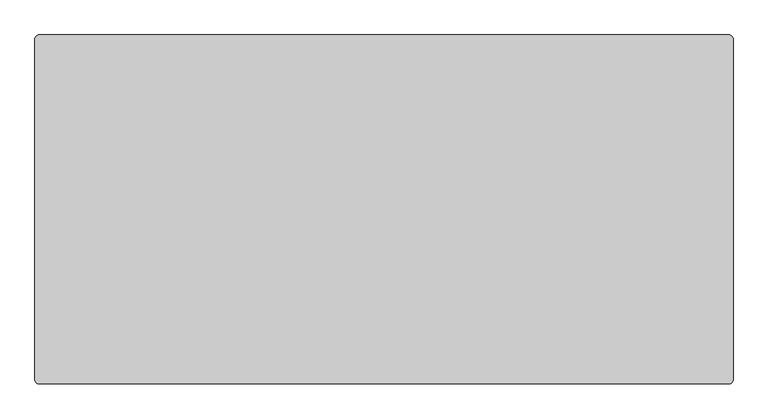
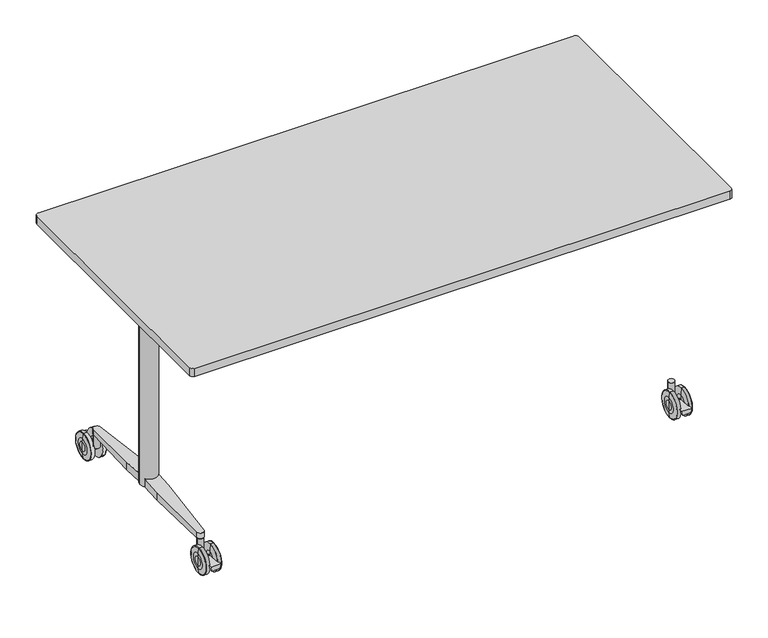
"""IFC4 building model written with IfcOpenShell, lengths in millimetres: furniture geometry."""

from ifc_helpers import new_model, si_unit, point, frame, frame_2d, origin, place, context, project, spatial, polyline, circle_curve, ellipse_curve, trimmed, segment, composite_curve, outline, extrude, source, transform, mapped, element, save
from ifc_brep_helpers import plane_surface, cylinder_surface, revolved_surface, advanced_brep


def furniture_45383b6d(model_context):
    return source(origin(), model_context, "Body", "SolidModel", [
        extrude(outline(composite_curve([segment(trimmed(circle_curve(frame_2d((-790.0, 515.9511544)), 10.0), [point((-800.0, 515.9511544))], [point((-790.0, 525.9511544))], False, "CARTESIAN"), True, "CONTINUOUS"), segment(polyline([(-790.0, 525.9511544), (790.0, 525.9511544)]), True, "CONTINUOUS"), segment(trimmed(circle_curve(frame_2d((790.0, 515.9511544)), 10.0), [point((790.0, 525.9511544))], [point((800.0, 515.9511544))], False, "CARTESIAN"), True, "CONTINUOUS"), segment(polyline([(800.0, 515.9511544), (800.0, -264.0488456)]), True, "CONTINUOUS"), segment(trimmed(circle_curve(frame_2d((790.0, -264.0488456)), 10.0), [point((800.0, -264.0488456))], [point((790.0, -274.0488456))], False, "CARTESIAN"), True, "CONTINUOUS"), segment(polyline([(790.0, -274.0488456), (-790.0, -274.0488456)]), True, "CONTINUOUS"), segment(trimmed(circle_curve(frame_2d((-790.0, -264.0488456)), 10.0), [point((-790.0, -274.0488456))], [point((-800.0, -264.0488456))], False, "CARTESIAN"), True, "CONTINUOUS"), segment(polyline([(-800.0, -264.0488456), (-800.0, 515.9511544)]), True, "CONTINUOUS")], self_intersect=False)), frame((0.0, 0.0, 705.0), z_axis=(0.0, 0.0, 1.0), x_axis=(1.0, 0.0, 0.0)), (0.0, 0.0, 1.0), 25.0),
        extrude(outline(polyline([(46.8012701, -709.9796901), (33.7579803, -707.2784737), (33.7579803, -683.5602115), (46.8012701, -680.8589951), (46.8012701, -709.9796901)])), frame((0.0, -219.0488456, 0.0), z_axis=(0.0, 1.0, 0.0), x_axis=(0.0, 0.0, 1.0)), (0.0, 0.0, 1.0), 50.0),
        extrude(outline(composite_curve([segment(trimmed(circle_curve(frame_2d((-695.5388896, -138.8396127)), 9.5), [point((-705.0388896, -138.8396127))], [point((-686.0388896, -138.8396127))], False, "CARTESIAN"), True, "CONTINUOUS"), segment(trimmed(circle_curve(frame_2d((-695.5388896, -138.8396127)), 9.5), [point((-686.0388896, -138.8396127))], [point((-705.0388896, -138.8396127))], False, "CARTESIAN"), True, "CONTINUOUS")], self_intersect=False)), frame((0.0, 0.0, 50.0000143), z_axis=(0.0, 0.0, 1.0), x_axis=(1.0, 0.0, 0.0)), (0.0, 0.0, 1.0), 38.8098324),
        advanced_brep(
        [(-670.4530674, -169.0488456, 26.9613134), (-670.4530674, -169.0488456, 53.0387194), (-670.4530674, -169.0488456, 40.0000164), (-672.5845915, -169.0488456, 0.8972162), (-672.5845915, -169.0488456, 79.1028166), (-671.0121742, -169.0488456, 63.8876748), (-671.0121742, -169.0488456, 16.1123581), (-683.5439759, -169.0488456, 1.43e-05), (-683.5439759, -169.0488456, 80.0000185), (-673.5792938, -169.0488456, 80.0000185), (-673.5792938, -169.0488456, 1.43e-05), (-685.4530966, -169.0488456, 20.9999281), (-685.4530966, -169.0488456, 59.0001048), (-685.4530966, -169.0488456, 32.3463502), (-685.4530966, -169.0488456, 47.6536826), (-705.3531174, -169.0488456, 32.3463502), (-705.3531174, -169.0488456, 47.6536826), (-705.3531174, -169.0488456, 20.9999281), (-705.3531174, -169.0488456, 59.0001048), (-707.2622381, -169.0488456, 1.43e-05), (-707.2622381, -169.0488456, 80.0000185), (-716.3249398, -169.0488456, 1.43e-05), (-716.3249398, -169.0488456, 80.0000185), (-719.7942336, -169.0488456, 16.1142331), (-719.7942336, -169.0488456, 63.8857997), (-718.3143443, -169.0488456, 78.2056147), (-718.3143443, -169.0488456, 1.7944182), (-720.3531466, -169.0488456, 40.0000164), (-720.3531466, -169.0488456, 53.0406045), (-720.3531466, -169.0488456, 26.9594284)],
        [
            (0, 1, circle_curve(frame((-670.4530674, -169.0488456, 40.0000164), z_axis=(1.0, 0.0, 0.0), x_axis=(0.0, 0.0, 1.0)), 13.038703)),
            (1, 2),
            (2, 0),
            (1, 0, circle_curve(frame((-670.4530674, -169.0488456, 40.0000164), z_axis=(1.0, 0.0, 0.0), x_axis=(0.0, 0.0, 1.0)), 13.038703)),
            (3, 4, circle_curve(frame((-672.5845915, -169.0488456, 40.0000164), z_axis=(1.0, 0.0, 0.0), x_axis=(0.0, 0.0, 1.0)), 39.1028002)),
            (4, 5),
            (5, 6, circle_curve(frame((-671.0121742, -169.0488456, 40.0000164), z_axis=(-1.0, 0.0, 0.0), x_axis=(0.0, 0.0, 1.0)), 23.8876584)),
            (6, 3),
            (4, 3, circle_curve(frame((-672.5845915, -169.0488456, 40.0000164), z_axis=(1.0, 0.0, 0.0), x_axis=(0.0, 0.0, 1.0)), 39.1028002)),
            (6, 5, circle_curve(frame((-671.0121742, -169.0488456, 40.0000164), z_axis=(-1.0, 0.0, 0.0), x_axis=(0.0, 0.0, 1.0)), 23.8876584)),
            (7, 8, circle_curve(frame((-683.5439759, -169.0488456, 40.0000164), z_axis=(1.0, 0.0, 0.0), x_axis=(0.0, 0.0, 1.0)), 40.0000021)),
            (8, 9),
            (9, 10, circle_curve(frame((-673.5792938, -169.0488456, 40.0000164), z_axis=(-1.0, 0.0, 0.0), x_axis=(0.0, 0.0, 1.0)), 40.0000021)),
            (10, 7),
            (8, 7, circle_curve(frame((-683.5439759, -169.0488456, 40.0000164), z_axis=(1.0, 0.0, 0.0), x_axis=(0.0, 0.0, 1.0)), 40.0000021)),
            (10, 9, circle_curve(frame((-673.5792938, -169.0488456, 40.0000164), z_axis=(-1.0, 0.0, 0.0), x_axis=(0.0, 0.0, 1.0)), 40.0000021)),
            (11, 12, circle_curve(frame((-685.4530966, -169.0488456, 40.0000164), z_axis=(1.0, 0.0, 0.0), x_axis=(0.0, 0.0, 1.0)), 19.0000883)),
            (12, 8),
            (7, 11),
            (12, 11, circle_curve(frame((-685.4530966, -169.0488456, 40.0000164), z_axis=(1.0, 0.0, 0.0), x_axis=(0.0, 0.0, 1.0)), 19.0000883)),
            (13, 14, circle_curve(frame((-685.4530966, -169.0488456, 40.0000164), z_axis=(1.0, 0.0, 0.0), x_axis=(0.0, 0.0, 1.0)), 7.6536662)),
            (14, 12),
            (11, 13),
            (14, 13, circle_curve(frame((-685.4530966, -169.0488456, 40.0000164), z_axis=(1.0, 0.0, 0.0), x_axis=(0.0, 0.0, 1.0)), 7.6536662)),
            (15, 16, circle_curve(frame((-705.3531174, -169.0488456, 40.0000164), z_axis=(1.0, 0.0, 0.0), x_axis=(0.0, 0.0, 1.0)), 7.6536662)),
            (16, 14),
            (13, 15),
            (16, 15, circle_curve(frame((-705.3531174, -169.0488456, 40.0000164), z_axis=(1.0, 0.0, 0.0), x_axis=(0.0, 0.0, 1.0)), 7.6536662)),
            (17, 18, circle_curve(frame((-705.3531174, -169.0488456, 40.0000164), z_axis=(1.0, 0.0, 0.0), x_axis=(0.0, 0.0, 1.0)), 19.0000883)),
            (18, 16),
            (15, 17),
            (18, 17, circle_curve(frame((-705.3531174, -169.0488456, 40.0000164), z_axis=(1.0, 0.0, 0.0), x_axis=(0.0, 0.0, 1.0)), 19.0000883)),
            (19, 20, circle_curve(frame((-707.2622381, -169.0488456, 40.0000164), z_axis=(1.0, 0.0, 0.0), x_axis=(0.0, 0.0, 1.0)), 40.0000021)),
            (20, 18),
            (17, 19),
            (20, 19, circle_curve(frame((-707.2622381, -169.0488456, 40.0000164), z_axis=(1.0, 0.0, 0.0), x_axis=(0.0, 0.0, 1.0)), 40.0000021)),
            (21, 22, circle_curve(frame((-716.3249398, -169.0488456, 40.0000164), z_axis=(1.0, 0.0, 0.0), x_axis=(0.0, 0.0, 1.0)), 40.0000021)),
            (22, 20),
            (19, 21),
            (22, 21, circle_curve(frame((-716.3249398, -169.0488456, 40.0000164), z_axis=(1.0, 0.0, 0.0), x_axis=(0.0, 0.0, 1.0)), 40.0000021)),
            (23, 24, circle_curve(frame((-719.7942336, -169.0488456, 40.0000164), z_axis=(1.0, 0.0, 0.0), x_axis=(0.0, 0.0, 1.0)), 23.8857833)),
            (24, 25),
            (25, 26, circle_curve(frame((-718.3143443, -169.0488456, 40.0000164), z_axis=(-1.0, 0.0, 0.0), x_axis=(0.0, 0.0, 1.0)), 38.2055982)),
            (26, 23),
            (24, 23, circle_curve(frame((-719.7942336, -169.0488456, 40.0000164), z_axis=(1.0, 0.0, 0.0), x_axis=(0.0, 0.0, 1.0)), 23.8857833)),
            (26, 25, circle_curve(frame((-718.3143443, -169.0488456, 40.0000164), z_axis=(-1.0, 0.0, 0.0), x_axis=(0.0, 0.0, 1.0)), 38.2055982)),
            (27, 28),
            (28, 29, circle_curve(frame((-720.3531466, -169.0488456, 40.0000164), z_axis=(-1.0, 0.0, 0.0), x_axis=(0.0, 0.0, 1.0)), 13.0405881)),
            (29, 27),
            (29, 28, circle_curve(frame((-720.3531466, -169.0488456, 40.0000164), z_axis=(-1.0, 0.0, 0.0), x_axis=(0.0, 0.0, 1.0)), 13.0405881)),
            (5, 1, circle_curve(frame((-775.9896451, -169.0488456, 53.0387194), z_axis=(0.0, 1.0, 0.0), x_axis=(-1.0, 0.0, 0.0)), 105.5365777)),
            (0, 6, circle_curve(frame((-775.9896451, -169.0488456, 26.9613134), z_axis=(0.0, 1.0, 0.0), x_axis=(-1.0, 0.0, 0.0)), 105.5365777)),
            (9, 4, circle_curve(frame((-673.5792938, -169.0488456, 79.0000185), z_axis=(0.0, 1.0, 0.0), x_axis=(-1.0, 0.0, 0.0)), 1.0)),
            (3, 10, circle_curve(frame((-673.5792938, -169.0488456, 1.0000143), z_axis=(0.0, 1.0, 0.0), x_axis=(-1.0, 0.0, 0.0)), 1.0)),
            (25, 22, circle_curve(frame((-716.3249398, -169.0488456, 78.0000185), z_axis=(0.0, 1.0, 0.0), x_axis=(-1.0, 0.0, 0.0)), 2.0)),
            (21, 26, circle_curve(frame((-716.3249398, -169.0488456, 2.0000143), z_axis=(0.0, 1.0, 0.0), x_axis=(-1.0, 0.0, 0.0)), 2.0)),
            (28, 24, circle_curve(frame((-614.8531466, -169.0488456, 53.0406045), z_axis=(0.0, 1.0, 0.0), x_axis=(-1.0, 0.0, 0.0)), 105.5)),
            (23, 29, circle_curve(frame((-614.8531466, -169.0488456, 26.9594284), z_axis=(0.0, 1.0, 0.0), x_axis=(-1.0, 0.0, 0.0)), 105.5)),
        ],
        [
            plane_surface(frame((-670.4530674, -169.0488456, 40.0000164), z_axis=(1.0, 0.0, 0.0), x_axis=(0.0, 0.0, 1.0))),
            revolved_surface(polyline([(-671.0121742, -169.0488456, 63.8876748), (-672.5845915, -169.0488456, 79.1028166)]), (-736.1531192, -169.0488456, 40.0000164), (-1.0, 0.0, 0.0)),
            cylinder_surface(frame((-736.1531192, -169.0488456, 40.0000164), z_axis=(-1.0, 0.0, 0.0), x_axis=(0.0, 0.0, 1.0)), 40.0000021),
            revolved_surface(polyline([(-683.5439759, -169.0488456, 80.0000185), (-685.4530966, -169.0488456, 59.0001048)]), (-736.1531192, -169.0488456, 40.0000164), (-1.0, 0.0, 0.0)),
            plane_surface(frame((-685.4530966, -169.0488456, 40.0000164), z_axis=(-1.0, 0.0, 0.0), x_axis=(0.0, 0.0, 1.0))),
            cylinder_surface(frame((-736.1531192, -169.0488456, 40.0000164), z_axis=(-1.0, 0.0, 0.0), x_axis=(0.0, 0.0, 1.0)), 7.6536662),
            plane_surface(frame((-705.3531174, -169.0488456, 40.0000164), z_axis=(1.0, 0.0, 0.0), x_axis=(0.0, 0.0, 1.0))),
            revolved_surface(polyline([(-705.3531174, -169.0488456, 59.0001048), (-707.2622381, -169.0488456, 80.0000185)]), (-736.1531192, -169.0488456, 40.0000164), (-1.0, 0.0, 0.0)),
            revolved_surface(polyline([(-718.3143443, -169.0488456, 78.2056147), (-719.7942336, -169.0488456, 63.8857997)]), (-736.1531192, -169.0488456, 40.0000164), (-1.0, 0.0, 0.0)),
            plane_surface(frame((-720.3531466, -169.0488456, 40.0000164), z_axis=(-1.0, 0.0, 0.0), x_axis=(0.0, 0.0, 1.0))),
            revolved_surface(trimmed(ellipse_curve(frame((-775.9896451, -169.0488456, 53.0387194), z_axis=(0.0, -1.0, 0.0), x_axis=(-1.0, 0.0, 0.0)), 105.5365777, 105.5365777), [point((-670.4530674, -169.0488456, 53.0387194))], [point((-671.0121742, -169.0488456, 63.8876748))], True, "CARTESIAN"), (-736.1531192, -169.0488456, 40.0000164), (-1.0, 0.0, 0.0)),
            revolved_surface(trimmed(ellipse_curve(frame((-673.5792938, -169.0488456, 79.0000185), z_axis=(0.0, -1.0, 0.0), x_axis=(-1.0, 0.0, 0.0)), 1.0, 1.0), [point((-672.5845915, -169.0488456, 79.1028166))], [point((-673.5792938, -169.0488456, 80.0000185))], True, "CARTESIAN"), (-736.1531192, -169.0488456, 40.0000164), (-1.0, 0.0, 0.0)),
            revolved_surface(trimmed(ellipse_curve(frame((-716.3249398, -169.0488456, 78.0000185), z_axis=(0.0, -1.0, 0.0), x_axis=(-1.0, 0.0, 0.0)), 2.0, 2.0), [point((-716.3249398, -169.0488456, 80.0000185))], [point((-718.3143443, -169.0488456, 78.2056147))], True, "CARTESIAN"), (-736.1531192, -169.0488456, 40.0000164), (-1.0, 0.0, 0.0)),
            revolved_surface(trimmed(ellipse_curve(frame((-614.8531466, -169.0488456, 53.0406045), z_axis=(0.0, -1.0, 0.0), x_axis=(-1.0, 0.0, 0.0)), 105.5, 105.5), [point((-719.7942336, -169.0488456, 63.8857997))], [point((-720.3531466, -169.0488456, 53.0406045))], True, "CARTESIAN"), (-736.1531192, -169.0488456, 40.0000164), (-1.0, 0.0, 0.0)),
        ],
        [
            (0, [[1, 2, 3]]),
            (0, [[4, -3, -2]]),
            (1, [[5, 6, 7, 8]]),
            (1, [[9, -8, 10, -6]]),
            (2, [[11, 12, 13, 14]]),
            (2, [[15, -14, 16, -12]]),
            (3, [[17, 18, -11, 19]]),
            (3, [[20, -19, -15, -18]]),
            (4, [[21, 22, -17, 23]]),
            (4, [[24, -23, -20, -22]]),
            (5, [[25, 26, -21, 27]]),
            (5, [[28, -27, -24, -26]]),
            (6, [[29, 30, -25, 31]]),
            (6, [[32, -31, -28, -30]]),
            (7, [[33, 34, -29, 35]]),
            (7, [[36, -35, -32, -34]]),
            (2, [[37, 38, -33, 39]]),
            (2, [[40, -39, -36, -38]]),
            (8, [[41, 42, 43, 44]]),
            (8, [[45, -44, 46, -42]]),
            (9, [[47, 48, 49]]),
            (9, [[-49, 50, -47]]),
            (10, [[-7, 51, -1, 52]]),
            (10, [[-10, -52, -4, -51]]),
            (11, [[-13, 53, -5, 54]]),
            (11, [[-16, -54, -9, -53]]),
            (12, [[-43, 55, -37, 56]]),
            (12, [[-46, -56, -40, -55]]),
            (13, [[-48, 57, -41, 58]]),
            (13, [[-50, -58, -45, -57]]),
        ],
    ),
        extrude(outline(polyline([(46.8012701, 709.9796901), (46.8012701, 680.8589951), (33.7579803, 683.5602115), (33.7579803, 707.2784737), (46.8012701, 709.9796901)])), frame((0.0, -219.0488456, 0.0), z_axis=(0.0, 1.0, 0.0), x_axis=(0.0, 0.0, 1.0)), (0.0, 0.0, 1.0), 50.0),
        extrude(outline(composite_curve([segment(trimmed(circle_curve(frame_2d((695.5388896, -138.8396127)), 9.5), [point((705.0388896, -138.8396127))], [point((686.0388896, -138.8396127))], False, "CARTESIAN"), True, "CONTINUOUS"), segment(trimmed(circle_curve(frame_2d((695.5388896, -138.8396127)), 9.5), [point((686.0388896, -138.8396127))], [point((705.0388896, -138.8396127))], False, "CARTESIAN"), True, "CONTINUOUS")], self_intersect=False)), frame((0.0, 0.0, 50.0000143), z_axis=(0.0, 0.0, 1.0), x_axis=(1.0, 0.0, 0.0)), (0.0, 0.0, 1.0), 38.8098324),
        advanced_brep(
        [(670.4530674, -169.0488456, 40.0000164), (670.4530674, -169.0488456, 53.0387194), (670.4530674, -169.0488456, 26.9613134), (671.0121742, -169.0488456, 16.1123581), (671.0121742, -169.0488456, 63.8876748), (672.5845915, -169.0488456, 79.1028166), (672.5845915, -169.0488456, 0.8972162), (673.5792938, -169.0488456, 1.43e-05), (673.5792938, -169.0488456, 80.0000185), (683.5439759, -169.0488456, 80.0000185), (683.5439759, -169.0488456, 1.43e-05), (685.4530966, -169.0488456, 59.0001048), (685.4530966, -169.0488456, 20.9999281), (685.4530966, -169.0488456, 47.6536826), (685.4530966, -169.0488456, 32.3463502), (705.3531174, -169.0488456, 47.6536826), (705.3531174, -169.0488456, 32.3463502), (705.3531174, -169.0488456, 59.0001048), (705.3531174, -169.0488456, 20.9999281), (707.2622381, -169.0488456, 80.0000185), (707.2622381, -169.0488456, 1.43e-05), (716.3249398, -169.0488456, 80.0000185), (716.3249398, -169.0488456, 1.43e-05), (718.3143443, -169.0488456, 1.7944182), (718.3143443, -169.0488456, 78.2056147), (719.7942336, -169.0488456, 63.8857997), (719.7942336, -169.0488456, 16.1142331), (720.3531466, -169.0488456, 26.9594284), (720.3531466, -169.0488456, 53.0406045), (720.3531466, -169.0488456, 40.0000164)],
        [
            (0, 1),
            (1, 2, circle_curve(frame((670.4530674, -169.0488456, 40.0000164), z_axis=(-1.0, 0.0, 0.0), x_axis=(0.0, 0.0, 1.0)), 13.038703)),
            (2, 0),
            (2, 1, circle_curve(frame((670.4530674, -169.0488456, 40.0000164), z_axis=(-1.0, 0.0, 0.0), x_axis=(0.0, 0.0, 1.0)), 13.038703)),
            (3, 4, circle_curve(frame((671.0121742, -169.0488456, 40.0000164), z_axis=(1.0, 0.0, 0.0), x_axis=(0.0, 0.0, 1.0)), 23.8876584)),
            (4, 5),
            (5, 6, circle_curve(frame((672.5845915, -169.0488456, 40.0000164), z_axis=(-1.0, 0.0, 0.0), x_axis=(0.0, 0.0, 1.0)), 39.1028002)),
            (6, 3),
            (4, 3, circle_curve(frame((671.0121742, -169.0488456, 40.0000164), z_axis=(1.0, 0.0, 0.0), x_axis=(0.0, 0.0, 1.0)), 23.8876584)),
            (6, 5, circle_curve(frame((672.5845915, -169.0488456, 40.0000164), z_axis=(-1.0, 0.0, 0.0), x_axis=(0.0, 0.0, 1.0)), 39.1028002)),
            (7, 8, circle_curve(frame((673.5792938, -169.0488456, 40.0000164), z_axis=(1.0, 0.0, 0.0), x_axis=(0.0, 0.0, 1.0)), 40.0000021)),
            (8, 9),
            (9, 10, circle_curve(frame((683.5439759, -169.0488456, 40.0000164), z_axis=(-1.0, 0.0, 0.0), x_axis=(0.0, 0.0, 1.0)), 40.0000021)),
            (10, 7),
            (8, 7, circle_curve(frame((673.5792938, -169.0488456, 40.0000164), z_axis=(1.0, 0.0, 0.0), x_axis=(0.0, 0.0, 1.0)), 40.0000021)),
            (10, 9, circle_curve(frame((683.5439759, -169.0488456, 40.0000164), z_axis=(-1.0, 0.0, 0.0), x_axis=(0.0, 0.0, 1.0)), 40.0000021)),
            (9, 11),
            (11, 12, circle_curve(frame((685.4530966, -169.0488456, 40.0000164), z_axis=(-1.0, 0.0, 0.0), x_axis=(0.0, 0.0, 1.0)), 19.0000883)),
            (12, 10),
            (12, 11, circle_curve(frame((685.4530966, -169.0488456, 40.0000164), z_axis=(-1.0, 0.0, 0.0), x_axis=(0.0, 0.0, 1.0)), 19.0000883)),
            (11, 13),
            (13, 14, circle_curve(frame((685.4530966, -169.0488456, 40.0000164), z_axis=(-1.0, 0.0, 0.0), x_axis=(0.0, 0.0, 1.0)), 7.6536662)),
            (14, 12),
            (14, 13, circle_curve(frame((685.4530966, -169.0488456, 40.0000164), z_axis=(-1.0, 0.0, 0.0), x_axis=(0.0, 0.0, 1.0)), 7.6536662)),
            (13, 15),
            (15, 16, circle_curve(frame((705.3531174, -169.0488456, 40.0000164), z_axis=(-1.0, 0.0, 0.0), x_axis=(0.0, 0.0, 1.0)), 7.6536662)),
            (16, 14),
            (16, 15, circle_curve(frame((705.3531174, -169.0488456, 40.0000164), z_axis=(-1.0, 0.0, 0.0), x_axis=(0.0, 0.0, 1.0)), 7.6536662)),
            (15, 17),
            (17, 18, circle_curve(frame((705.3531174, -169.0488456, 40.0000164), z_axis=(-1.0, 0.0, 0.0), x_axis=(0.0, 0.0, 1.0)), 19.0000883)),
            (18, 16),
            (18, 17, circle_curve(frame((705.3531174, -169.0488456, 40.0000164), z_axis=(-1.0, 0.0, 0.0), x_axis=(0.0, 0.0, 1.0)), 19.0000883)),
            (17, 19),
            (19, 20, circle_curve(frame((707.2622381, -169.0488456, 40.0000164), z_axis=(-1.0, 0.0, 0.0), x_axis=(0.0, 0.0, 1.0)), 40.0000021)),
            (20, 18),
            (20, 19, circle_curve(frame((707.2622381, -169.0488456, 40.0000164), z_axis=(-1.0, 0.0, 0.0), x_axis=(0.0, 0.0, 1.0)), 40.0000021)),
            (19, 21),
            (21, 22, circle_curve(frame((716.3249398, -169.0488456, 40.0000164), z_axis=(-1.0, 0.0, 0.0), x_axis=(0.0, 0.0, 1.0)), 40.0000021)),
            (22, 20),
            (22, 21, circle_curve(frame((716.3249398, -169.0488456, 40.0000164), z_axis=(-1.0, 0.0, 0.0), x_axis=(0.0, 0.0, 1.0)), 40.0000021)),
            (23, 24, circle_curve(frame((718.3143443, -169.0488456, 40.0000164), z_axis=(1.0, 0.0, 0.0), x_axis=(0.0, 0.0, 1.0)), 38.2055982)),
            (24, 25),
            (25, 26, circle_curve(frame((719.7942336, -169.0488456, 40.0000164), z_axis=(-1.0, 0.0, 0.0), x_axis=(0.0, 0.0, 1.0)), 23.8857833)),
            (26, 23),
            (24, 23, circle_curve(frame((718.3143443, -169.0488456, 40.0000164), z_axis=(1.0, 0.0, 0.0), x_axis=(0.0, 0.0, 1.0)), 38.2055982)),
            (26, 25, circle_curve(frame((719.7942336, -169.0488456, 40.0000164), z_axis=(-1.0, 0.0, 0.0), x_axis=(0.0, 0.0, 1.0)), 23.8857833)),
            (27, 28, circle_curve(frame((720.3531466, -169.0488456, 40.0000164), z_axis=(1.0, 0.0, 0.0), x_axis=(0.0, 0.0, 1.0)), 13.0405881)),
            (28, 29),
            (29, 27),
            (28, 27, circle_curve(frame((720.3531466, -169.0488456, 40.0000164), z_axis=(1.0, 0.0, 0.0), x_axis=(0.0, 0.0, 1.0)), 13.0405881)),
            (1, 4, circle_curve(frame((775.9896451, -169.0488456, 53.0387194), z_axis=(0.0, 1.0, 0.0), x_axis=(-1.0, 0.0, 0.0)), 105.5365777)),
            (3, 2, circle_curve(frame((775.9896451, -169.0488456, 26.9613134), z_axis=(0.0, 1.0, 0.0), x_axis=(-1.0, 0.0, 0.0)), 105.5365777)),
            (5, 8, circle_curve(frame((673.5792938, -169.0488456, 79.0000185), z_axis=(0.0, 1.0, 0.0), x_axis=(-1.0, 0.0, 0.0)), 1.0)),
            (7, 6, circle_curve(frame((673.5792938, -169.0488456, 1.0000143), z_axis=(0.0, 1.0, 0.0), x_axis=(-1.0, 0.0, 0.0)), 1.0)),
            (21, 24, circle_curve(frame((716.3249398, -169.0488456, 78.0000185), z_axis=(0.0, 1.0, 0.0), x_axis=(-1.0, 0.0, 0.0)), 2.0)),
            (23, 22, circle_curve(frame((716.3249398, -169.0488456, 2.0000143), z_axis=(0.0, 1.0, 0.0), x_axis=(-1.0, 0.0, 0.0)), 2.0)),
            (25, 28, circle_curve(frame((614.8531466, -169.0488456, 53.0406045), z_axis=(0.0, 1.0, 0.0), x_axis=(-1.0, 0.0, 0.0)), 105.5)),
            (27, 26, circle_curve(frame((614.8531466, -169.0488456, 26.9594284), z_axis=(0.0, 1.0, 0.0), x_axis=(-1.0, 0.0, 0.0)), 105.5)),
        ],
        [
            plane_surface(frame((670.4530674, -169.0488456, 40.0000164), z_axis=(-1.0, 0.0, 0.0), x_axis=(0.0, 0.0, 1.0))),
            revolved_surface(polyline([(672.5845915, -169.0488456, 79.1028166), (671.0121742, -169.0488456, 63.8876748)]), (736.1531192, -169.0488456, 40.0000164), (-1.0, 0.0, 0.0)),
            cylinder_surface(frame((736.1531192, -169.0488456, 40.0000164), z_axis=(-1.0, 0.0, 0.0), x_axis=(0.0, 0.0, 1.0)), 40.0000021),
            revolved_surface(polyline([(685.4530966, -169.0488456, 59.0001048), (683.5439759, -169.0488456, 80.0000185)]), (736.1531192, -169.0488456, 40.0000164), (-1.0, 0.0, 0.0)),
            plane_surface(frame((685.4530966, -169.0488456, 40.0000164), z_axis=(1.0, 0.0, 0.0), x_axis=(0.0, 0.0, 1.0))),
            cylinder_surface(frame((736.1531192, -169.0488456, 40.0000164), z_axis=(-1.0, 0.0, 0.0), x_axis=(0.0, 0.0, 1.0)), 7.6536662),
            plane_surface(frame((705.3531174, -169.0488456, 40.0000164), z_axis=(-1.0, 0.0, 0.0), x_axis=(0.0, 0.0, 1.0))),
            revolved_surface(polyline([(707.2622381, -169.0488456, 80.0000185), (705.3531174, -169.0488456, 59.0001048)]), (736.1531192, -169.0488456, 40.0000164), (-1.0, 0.0, 0.0)),
            revolved_surface(polyline([(719.7942336, -169.0488456, 63.8857997), (718.3143443, -169.0488456, 78.2056147)]), (736.1531192, -169.0488456, 40.0000164), (-1.0, 0.0, 0.0)),
            plane_surface(frame((720.3531466, -169.0488456, 40.0000164), z_axis=(1.0, 0.0, 0.0), x_axis=(0.0, 0.0, 1.0))),
            revolved_surface(trimmed(ellipse_curve(frame((775.9896451, -169.0488456, 53.0387194), z_axis=(0.0, -1.0, 0.0), x_axis=(-1.0, 0.0, 0.0)), 105.5365777, 105.5365777), [point((671.0121742, -169.0488456, 63.8876748))], [point((670.4530674, -169.0488456, 53.0387194))], True, "CARTESIAN"), (736.1531192, -169.0488456, 40.0000164), (-1.0, 0.0, 0.0)),
            revolved_surface(trimmed(ellipse_curve(frame((673.5792938, -169.0488456, 79.0000185), z_axis=(0.0, -1.0, 0.0), x_axis=(-1.0, 0.0, 0.0)), 1.0, 1.0), [point((673.5792938, -169.0488456, 80.0000185))], [point((672.5845915, -169.0488456, 79.1028166))], True, "CARTESIAN"), (736.1531192, -169.0488456, 40.0000164), (-1.0, 0.0, 0.0)),
            revolved_surface(trimmed(ellipse_curve(frame((716.3249398, -169.0488456, 78.0000185), z_axis=(0.0, -1.0, 0.0), x_axis=(-1.0, 0.0, 0.0)), 2.0, 2.0), [point((718.3143443, -169.0488456, 78.2056147))], [point((716.3249398, -169.0488456, 80.0000185))], True, "CARTESIAN"), (736.1531192, -169.0488456, 40.0000164), (-1.0, 0.0, 0.0)),
            revolved_surface(trimmed(ellipse_curve(frame((614.8531466, -169.0488456, 53.0406045), z_axis=(0.0, -1.0, 0.0), x_axis=(-1.0, 0.0, 0.0)), 105.5, 105.5), [point((720.3531466, -169.0488456, 53.0406045))], [point((719.7942336, -169.0488456, 63.8857997))], True, "CARTESIAN"), (736.1531192, -169.0488456, 40.0000164), (-1.0, 0.0, 0.0)),
        ],
        [
            (0, [[1, 2, 3]]),
            (0, [[-3, 4, -1]]),
            (1, [[5, 6, 7, 8]]),
            (1, [[9, -8, 10, -6]]),
            (2, [[11, 12, 13, 14]]),
            (2, [[15, -14, 16, -12]]),
            (3, [[-13, 17, 18, 19]]),
            (3, [[-16, -19, 20, -17]]),
            (4, [[-18, 21, 22, 23]]),
            (4, [[-20, -23, 24, -21]]),
            (5, [[-22, 25, 26, 27]]),
            (5, [[-24, -27, 28, -25]]),
            (6, [[-26, 29, 30, 31]]),
            (6, [[-28, -31, 32, -29]]),
            (7, [[-30, 33, 34, 35]]),
            (7, [[-32, -35, 36, -33]]),
            (2, [[-34, 37, 38, 39]]),
            (2, [[-36, -39, 40, -37]]),
            (8, [[41, 42, 43, 44]]),
            (8, [[45, -44, 46, -42]]),
            (9, [[47, 48, 49]]),
            (9, [[50, -49, -48]]),
            (10, [[-2, 51, -5, 52]]),
            (10, [[-4, -52, -9, -51]]),
            (11, [[-7, 53, -11, 54]]),
            (11, [[-10, -54, -15, -53]]),
            (12, [[-38, 55, -41, 56]]),
            (12, [[-40, -56, -45, -55]]),
            (13, [[-43, 57, -47, 58]]),
            (13, [[-46, -58, -50, -57]]),
        ],
    ),
        extrude(outline(composite_curve([segment(trimmed(circle_curve(frame_2d((-694.9999748, 125.9511544)), 20.0), [point((-714.9999748, 125.9511544))], [point((-674.9999748, 125.9511544))], False, "CARTESIAN"), True, "CONTINUOUS"), segment(trimmed(circle_curve(frame_2d((-694.9999748, 125.9511544)), 20.0), [point((-674.9999748, 125.9511544))], [point((-714.9999748, 125.9511544))], False, "CARTESIAN"), True, "CONTINUOUS")], self_intersect=False)), frame((0.0, 0.0, 656.2373886), z_axis=(0.0, 0.0, 1.0), x_axis=(1.0, 0.0, 0.0)), (0.0, 0.0, 1.0), 15.9928755),
        extrude(outline(composite_curve([segment(trimmed(circle_curve(frame_2d((-694.9999748, 125.9511544)), 22.0748856), [point((-672.9250892, 125.9511544))], [point((-717.0748605, 125.9511544))], False, "CARTESIAN"), True, "CONTINUOUS"), segment(trimmed(circle_curve(frame_2d((-694.9999748, 125.9511544)), 22.0748856), [point((-717.0748605, 125.9511544))], [point((-672.9250892, 125.9511544))], False, "CARTESIAN"), True, "CONTINUOUS")], self_intersect=False)), frame((0.0, 0.0, 648.5142032), z_axis=(0.0, 0.0, 1.0), x_axis=(1.0, 0.0, 0.0)), (0.0, 0.0, 1.0), 7.7231854),
        extrude(outline(composite_curve([segment(trimmed(circle_curve(frame_2d((-694.9999748, 125.9511544)), 21.8066495), [point((-673.1933253, 125.9511544))], [point((-716.8066244, 125.9511544))], False, "CARTESIAN"), True, "CONTINUOUS"), segment(trimmed(circle_curve(frame_2d((-694.9999748, 125.9511544)), 21.8066495), [point((-716.8066244, 125.9511544))], [point((-673.1933253, 125.9511544))], False, "CARTESIAN"), True, "CONTINUOUS")], self_intersect=False)), frame((0.0, 0.0, 672.2302641), z_axis=(0.0, 0.0, 1.0), x_axis=(1.0, 0.0, 0.0)), (0.0, 0.0, 1.0), 12.7697121),
        extrude(outline(composite_curve([segment(trimmed(circle_curve(frame_2d((695.0000252, 125.9511544)), 20.0), [point((675.0000252, 125.9511544))], [point((715.0000252, 125.9511544))], False, "CARTESIAN"), True, "CONTINUOUS"), segment(trimmed(circle_curve(frame_2d((695.0000252, 125.9511544)), 20.0), [point((715.0000252, 125.9511544))], [point((675.0000252, 125.9511544))], False, "CARTESIAN"), True, "CONTINUOUS")], self_intersect=False)), frame((0.0, 0.0, 656.2373886), z_axis=(0.0, 0.0, 1.0), x_axis=(1.0, 0.0, 0.0)), (0.0, 0.0, 1.0), 15.9928755),
        advanced_brep(
        [(-670.4530674, 420.9511544, 40.0000164), (-670.4530674, 420.9511544, 53.0387194), (-670.4530674, 420.9511544, 26.9613134), (-671.0121742, 420.9511544, 16.1123581), (-671.0121742, 420.9511544, 63.8876748), (-672.5845915, 420.9511544, 79.1028166), (-672.5845915, 420.9511544, 0.8972162), (-673.5792938, 420.9511544, 1.43e-05), (-673.5792938, 420.9511544, 80.0000185), (-683.5439759, 420.9511544, 80.0000185), (-683.5439759, 420.9511544, 1.43e-05), (-685.4530966, 420.9511544, 59.0001048), (-685.4530966, 420.9511544, 20.9999281), (-685.4530966, 420.9511544, 47.6536826), (-685.4530966, 420.9511544, 32.3463502), (-705.3531174, 420.9511544, 47.6536826), (-705.3531174, 420.9511544, 32.3463502), (-705.3531174, 420.9511544, 59.0001048), (-705.3531174, 420.9511544, 20.9999281), (-707.2622381, 420.9511544, 80.0000185), (-707.2622381, 420.9511544, 1.43e-05), (-716.3249398, 420.9511544, 80.0000185), (-716.3249398, 420.9511544, 1.43e-05), (-718.3143443, 420.9511544, 1.7944182), (-718.3143443, 420.9511544, 78.2056147), (-719.7942336, 420.9511544, 63.8857997), (-719.7942336, 420.9511544, 16.1142331), (-720.3531466, 420.9511544, 26.9594284), (-720.3531466, 420.9511544, 53.0406045), (-720.3531466, 420.9511544, 40.0000164)],
        [
            (0, 1),
            (1, 2, circle_curve(frame((-670.4530674, 420.9511544, 40.0000164), z_axis=(1.0, 0.0, 0.0), x_axis=(0.0, 0.0, 1.0)), 13.038703)),
            (2, 0),
            (2, 1, circle_curve(frame((-670.4530674, 420.9511544, 40.0000164), z_axis=(1.0, 0.0, 0.0), x_axis=(0.0, 0.0, 1.0)), 13.038703)),
            (3, 4, circle_curve(frame((-671.0121742, 420.9511544, 40.0000164), z_axis=(-1.0, 0.0, 0.0), x_axis=(0.0, 0.0, 1.0)), 23.8876584)),
            (4, 5),
            (5, 6, circle_curve(frame((-672.5845915, 420.9511544, 40.0000164), z_axis=(1.0, 0.0, 0.0), x_axis=(0.0, 0.0, 1.0)), 39.1028002)),
            (6, 3),
            (4, 3, circle_curve(frame((-671.0121742, 420.9511544, 40.0000164), z_axis=(-1.0, 0.0, 0.0), x_axis=(0.0, 0.0, 1.0)), 23.8876584)),
            (6, 5, circle_curve(frame((-672.5845915, 420.9511544, 40.0000164), z_axis=(1.0, 0.0, 0.0), x_axis=(0.0, 0.0, 1.0)), 39.1028002)),
            (7, 8, circle_curve(frame((-673.5792938, 420.9511544, 40.0000164), z_axis=(-1.0, 0.0, 0.0), x_axis=(0.0, 0.0, 1.0)), 40.0000021)),
            (8, 9),
            (9, 10, circle_curve(frame((-683.5439759, 420.9511544, 40.0000164), z_axis=(1.0, 0.0, 0.0), x_axis=(0.0, 0.0, 1.0)), 40.0000021)),
            (10, 7),
            (8, 7, circle_curve(frame((-673.5792938, 420.9511544, 40.0000164), z_axis=(-1.0, 0.0, 0.0), x_axis=(0.0, 0.0, 1.0)), 40.0000021)),
            (10, 9, circle_curve(frame((-683.5439759, 420.9511544, 40.0000164), z_axis=(1.0, 0.0, 0.0), x_axis=(0.0, 0.0, 1.0)), 40.0000021)),
            (9, 11),
            (11, 12, circle_curve(frame((-685.4530966, 420.9511544, 40.0000164), z_axis=(1.0, 0.0, 0.0), x_axis=(0.0, 0.0, 1.0)), 19.0000883)),
            (12, 10),
            (12, 11, circle_curve(frame((-685.4530966, 420.9511544, 40.0000164), z_axis=(1.0, 0.0, 0.0), x_axis=(0.0, 0.0, 1.0)), 19.0000883)),
            (11, 13),
            (13, 14, circle_curve(frame((-685.4530966, 420.9511544, 40.0000164), z_axis=(1.0, 0.0, 0.0), x_axis=(0.0, 0.0, 1.0)), 7.6536662)),
            (14, 12),
            (14, 13, circle_curve(frame((-685.4530966, 420.9511544, 40.0000164), z_axis=(1.0, 0.0, 0.0), x_axis=(0.0, 0.0, 1.0)), 7.6536662)),
            (13, 15),
            (15, 16, circle_curve(frame((-705.3531174, 420.9511544, 40.0000164), z_axis=(1.0, 0.0, 0.0), x_axis=(0.0, 0.0, 1.0)), 7.6536662)),
            (16, 14),
            (16, 15, circle_curve(frame((-705.3531174, 420.9511544, 40.0000164), z_axis=(1.0, 0.0, 0.0), x_axis=(0.0, 0.0, 1.0)), 7.6536662)),
            (15, 17),
            (17, 18, circle_curve(frame((-705.3531174, 420.9511544, 40.0000164), z_axis=(1.0, 0.0, 0.0), x_axis=(0.0, 0.0, 1.0)), 19.0000883)),
            (18, 16),
            (18, 17, circle_curve(frame((-705.3531174, 420.9511544, 40.0000164), z_axis=(1.0, 0.0, 0.0), x_axis=(0.0, 0.0, 1.0)), 19.0000883)),
            (17, 19),
            (19, 20, circle_curve(frame((-707.2622381, 420.9511544, 40.0000164), z_axis=(1.0, 0.0, 0.0), x_axis=(0.0, 0.0, 1.0)), 40.0000021)),
            (20, 18),
            (20, 19, circle_curve(frame((-707.2622381, 420.9511544, 40.0000164), z_axis=(1.0, 0.0, 0.0), x_axis=(0.0, 0.0, 1.0)), 40.0000021)),
            (19, 21),
            (21, 22, circle_curve(frame((-716.3249398, 420.9511544, 40.0000164), z_axis=(1.0, 0.0, 0.0), x_axis=(0.0, 0.0, 1.0)), 40.0000021)),
            (22, 20),
            (22, 21, circle_curve(frame((-716.3249398, 420.9511544, 40.0000164), z_axis=(1.0, 0.0, 0.0), x_axis=(0.0, 0.0, 1.0)), 40.0000021)),
            (23, 24, circle_curve(frame((-718.3143443, 420.9511544, 40.0000164), z_axis=(-1.0, 0.0, 0.0), x_axis=(0.0, 0.0, 1.0)), 38.2055982)),
            (24, 25),
            (25, 26, circle_curve(frame((-719.7942336, 420.9511544, 40.0000164), z_axis=(1.0, 0.0, 0.0), x_axis=(0.0, 0.0, 1.0)), 23.8857833)),
            (26, 23),
            (24, 23, circle_curve(frame((-718.3143443, 420.9511544, 40.0000164), z_axis=(-1.0, 0.0, 0.0), x_axis=(0.0, 0.0, 1.0)), 38.2055982)),
            (26, 25, circle_curve(frame((-719.7942336, 420.9511544, 40.0000164), z_axis=(1.0, 0.0, 0.0), x_axis=(0.0, 0.0, 1.0)), 23.8857833)),
            (27, 28, circle_curve(frame((-720.3531466, 420.9511544, 40.0000164), z_axis=(-1.0, 0.0, 0.0), x_axis=(0.0, 0.0, 1.0)), 13.0405881)),
            (28, 29),
            (29, 27),
            (28, 27, circle_curve(frame((-720.3531466, 420.9511544, 40.0000164), z_axis=(-1.0, 0.0, 0.0), x_axis=(0.0, 0.0, 1.0)), 13.0405881)),
            (1, 4, circle_curve(frame((-775.9896451, 420.9511544, 53.0387194), z_axis=(0.0, -1.0, 0.0), x_axis=(-1.0, 0.0, 0.0)), 105.5365777)),
            (3, 2, circle_curve(frame((-775.9896451, 420.9511544, 26.9613134), z_axis=(0.0, -1.0, 0.0), x_axis=(-1.0, 0.0, 0.0)), 105.5365777)),
            (5, 8, circle_curve(frame((-673.5792938, 420.9511544, 79.0000185), z_axis=(0.0, -1.0, 0.0), x_axis=(-1.0, 0.0, 0.0)), 1.0)),
            (7, 6, circle_curve(frame((-673.5792938, 420.9511544, 1.0000143), z_axis=(0.0, -1.0, 0.0), x_axis=(-1.0, 0.0, 0.0)), 1.0)),
            (21, 24, circle_curve(frame((-716.3249398, 420.9511544, 78.0000185), z_axis=(0.0, -1.0, 0.0), x_axis=(-1.0, 0.0, 0.0)), 2.0)),
            (23, 22, circle_curve(frame((-716.3249398, 420.9511544, 2.0000143), z_axis=(0.0, -1.0, 0.0), x_axis=(-1.0, 0.0, 0.0)), 2.0)),
            (25, 28, circle_curve(frame((-614.8531466, 420.9511544, 53.0406045), z_axis=(0.0, -1.0, 0.0), x_axis=(-1.0, 0.0, 0.0)), 105.5)),
            (27, 26, circle_curve(frame((-614.8531466, 420.9511544, 26.9594284), z_axis=(0.0, -1.0, 0.0), x_axis=(-1.0, 0.0, 0.0)), 105.5)),
        ],
        [
            plane_surface(frame((-670.4530674, 420.9511544, 40.0000164), z_axis=(1.0, 0.0, 0.0), x_axis=(0.0, 0.0, 1.0))),
            revolved_surface(polyline([(-672.5845915, 420.9511544, 79.1028166), (-671.0121742, 420.9511544, 63.8876748)]), (-736.1531192, 420.9511544, 40.0000164), (1.0, 0.0, 0.0)),
            cylinder_surface(frame((-736.1531192, 420.9511544, 40.0000164), z_axis=(1.0, 0.0, 0.0), x_axis=(0.0, 0.0, 1.0)), 40.0000021),
            revolved_surface(polyline([(-685.4530966, 420.9511544, 59.0001048), (-683.5439759, 420.9511544, 80.0000185)]), (-736.1531192, 420.9511544, 40.0000164), (1.0, 0.0, 0.0)),
            plane_surface(frame((-685.4530966, 420.9511544, 40.0000164), z_axis=(-1.0, 0.0, 0.0), x_axis=(0.0, 0.0, 1.0))),
            cylinder_surface(frame((-736.1531192, 420.9511544, 40.0000164), z_axis=(1.0, 0.0, 0.0), x_axis=(0.0, 0.0, 1.0)), 7.6536662),
            plane_surface(frame((-705.3531174, 420.9511544, 40.0000164), z_axis=(1.0, 0.0, 0.0), x_axis=(0.0, 0.0, 1.0))),
            revolved_surface(polyline([(-707.2622381, 420.9511544, 80.0000185), (-705.3531174, 420.9511544, 59.0001048)]), (-736.1531192, 420.9511544, 40.0000164), (1.0, 0.0, 0.0)),
            revolved_surface(polyline([(-719.7942336, 420.9511544, 63.8857997), (-718.3143443, 420.9511544, 78.2056147)]), (-736.1531192, 420.9511544, 40.0000164), (1.0, 0.0, 0.0)),
            plane_surface(frame((-720.3531466, 420.9511544, 40.0000164), z_axis=(-1.0, 0.0, 0.0), x_axis=(0.0, 0.0, 1.0))),
            revolved_surface(trimmed(ellipse_curve(frame((-775.9896451, 420.9511544, 53.0387194), z_axis=(0.0, 1.0, 0.0), x_axis=(-1.0, 0.0, 0.0)), 105.5365777, 105.5365777), [point((-671.0121742, 420.9511544, 63.8876748))], [point((-670.4530674, 420.9511544, 53.0387194))], True, "CARTESIAN"), (-736.1531192, 420.9511544, 40.0000164), (1.0, 0.0, 0.0)),
            revolved_surface(trimmed(ellipse_curve(frame((-673.5792938, 420.9511544, 79.0000185), z_axis=(0.0, 1.0, 0.0), x_axis=(-1.0, 0.0, 0.0)), 1.0, 1.0), [point((-673.5792938, 420.9511544, 80.0000185))], [point((-672.5845915, 420.9511544, 79.1028166))], True, "CARTESIAN"), (-736.1531192, 420.9511544, 40.0000164), (1.0, 0.0, 0.0)),
            revolved_surface(trimmed(ellipse_curve(frame((-716.3249398, 420.9511544, 78.0000185), z_axis=(0.0, 1.0, 0.0), x_axis=(-1.0, 0.0, 0.0)), 2.0, 2.0), [point((-718.3143443, 420.9511544, 78.2056147))], [point((-716.3249398, 420.9511544, 80.0000185))], True, "CARTESIAN"), (-736.1531192, 420.9511544, 40.0000164), (1.0, 0.0, 0.0)),
            revolved_surface(trimmed(ellipse_curve(frame((-614.8531466, 420.9511544, 53.0406045), z_axis=(0.0, 1.0, 0.0), x_axis=(-1.0, 0.0, 0.0)), 105.5, 105.5), [point((-720.3531466, 420.9511544, 53.0406045))], [point((-719.7942336, 420.9511544, 63.8857997))], True, "CARTESIAN"), (-736.1531192, 420.9511544, 40.0000164), (1.0, 0.0, 0.0)),
        ],
        [
            (0, [[1, 2, 3]]),
            (0, [[-3, 4, -1]]),
            (1, [[5, 6, 7, 8]]),
            (1, [[9, -8, 10, -6]]),
            (2, [[11, 12, 13, 14]]),
            (2, [[15, -14, 16, -12]]),
            (3, [[-13, 17, 18, 19]]),
            (3, [[-16, -19, 20, -17]]),
            (4, [[-18, 21, 22, 23]]),
            (4, [[-20, -23, 24, -21]]),
            (5, [[-22, 25, 26, 27]]),
            (5, [[-24, -27, 28, -25]]),
            (6, [[-26, 29, 30, 31]]),
            (6, [[-28, -31, 32, -29]]),
            (7, [[-30, 33, 34, 35]]),
            (7, [[-32, -35, 36, -33]]),
            (2, [[-34, 37, 38, 39]]),
            (2, [[-36, -39, 40, -37]]),
            (8, [[41, 42, 43, 44]]),
            (8, [[45, -44, 46, -42]]),
            (9, [[47, 48, 49]]),
            (9, [[50, -49, -48]]),
            (10, [[-2, 51, -5, 52]]),
            (10, [[-4, -52, -9, -51]]),
            (11, [[-7, 53, -11, 54]]),
            (11, [[-10, -54, -15, -53]]),
            (12, [[-38, 55, -41, 56]]),
            (12, [[-40, -56, -45, -55]]),
            (13, [[-43, 57, -47, 58]]),
            (13, [[-46, -58, -50, -57]]),
        ],
    ),
        advanced_brep(
        [(-715.0000252, 110.1174444, 125.5064747), (-715.0000252, 110.1174444, 100.5064747), (-715.0000252, 48.667977, 97.6104428), (-715.0000252, 48.667977, 120.8934303), (-675.0000252, 110.1174444, 100.5064747), (-675.0000252, 110.1174444, 125.5064747), (-675.0000252, 60.8207913, 121.8057485), (-675.0000252, 60.8207913, 98.1831888), (-685.2789925, -138.0675149, 88.8098467), (-705.3449615, -138.0675149, 88.8098467), (-705.2954923, -139.0242831, 106.8032716), (-685.3284401, -139.0242798, 106.8032718), (-685.3284401, -139.0242798, 88.8098467), (-705.2954923, -139.0242831, 88.8098467)],
        [
            (0, 1),
            (1, 2),
            (2, 3),
            (3, 0),
            (4, 5),
            (5, 6),
            (6, 7),
            (7, 4),
            (1, 4),
            (7, 8),
            (8, 9),
            (9, 2),
            (5, 0),
            (3, 10),
            (10, 11, ellipse_curve(frame((-695.3119663, -138.4505156, 106.8463446), z_axis=(0.0, -0.07485989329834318, 0.9971940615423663), x_axis=(0.0, -0.9971940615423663, -0.07485989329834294)), 10.0281383, 10.0)),
            (11, 6),
            (8, 12),
            (12, 13, circle_curve(frame((-695.3119663, -138.4505156, 88.8098467), z_axis=(0.0, 0.0, -1.0), x_axis=(1.0, 0.0, 0.0)), 10.0)),
            (13, 9),
            (11, 12),
            (10, 13),
        ],
        [
            plane_surface(frame((-715.0000252, -138.0675149, 88.8098467), z_axis=(-1.0, 0.0, 0.0), x_axis=(0.0, -1.0, 0.0))),
            plane_surface(frame((-675.0000252, -138.0675149, 88.8098467), z_axis=(1.0, 0.0, 0.0), x_axis=(0.0, 1.0, 0.0))),
            plane_surface(frame((-715.0000252, 110.1174444, 100.5064747), z_axis=(0.0, 0.047076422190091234, -0.998891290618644), x_axis=(1.0, 0.0, 0.0))),
            plane_surface(frame((-715.0000252, -149.5346363, 106.0142537), z_axis=(0.0, -0.07485989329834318, 0.9971940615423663), x_axis=(1.0, 0.0, 0.0))),
            plane_surface(frame((-715.0000252, -138.0675149, 88.8098467), z_axis=(0.0, 0.0, -1.0), x_axis=(1.0, 0.0, 0.0))),
            plane_surface(frame((-715.0000252, 110.1174444, 125.5064747), z_axis=(0.0, 1.0, 0.0), x_axis=(1.0, 0.0, 0.0))),
            plane_surface(frame((-672.5013837, 109.1671434, 234.8098558), z_axis=(0.9986671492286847, -0.05161322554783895, 0.0), x_axis=(0.0, 0.0, -1.0))),
            cylinder_surface(frame((-695.3119663, -138.4505156, -14.1901527), z_axis=(0.0, 0.0, -1.0), x_axis=(1.0, 0.0, 0.0)), 10.0),
            plane_surface(frame((-705.2954923, -139.0242831, 234.8098558), z_axis=(-0.9986659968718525, -0.05163551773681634, 0.0), x_axis=(0.0, 0.0, -1.0))),
        ],
        [
            (0, [[1, 2, 3, 4]]),
            (1, [[5, 6, 7, 8]]),
            (2, [[9, -8, 10, 11, 12, -2]]),
            (3, [[13, -4, 14, 15, 16, -6]]),
            (4, [[-11, 17, 18, 19]]),
            (5, [[-1, -13, -5, -9]]),
            (6, [[20, -17, -10, -7, -16]]),
            (7, [[-20, -15, 21, -18]]),
            (8, [[-21, -14, -3, -12, -19]]),
        ],
    ),
        advanced_brep(
        [(-715.0000252, 141.7848644, 100.5064747), (-715.0000252, 141.7848644, 125.5064747), (-715.0000252, 203.2343319, 120.8934303), (-715.0000252, 203.2343319, 97.6104428), (-675.0000252, 141.7848644, 125.5064747), (-675.0000252, 141.7848644, 100.5064747), (-675.0000252, 191.0815176, 98.1831888), (-675.0000252, 191.0815176, 121.8057485), (-705.3449615, 389.9698238, 88.8098467), (-685.2789925, 389.9698238, 88.8098467), (-685.3284401, 390.9265887, 106.8032718), (-705.2954923, 390.926592, 106.8032716), (-705.2954923, 390.926592, 88.8098467), (-685.3284401, 390.9265887, 88.8098467)],
        [
            (0, 1),
            (1, 2),
            (2, 3),
            (3, 0),
            (4, 5),
            (5, 6),
            (6, 7),
            (7, 4),
            (5, 0),
            (3, 8),
            (8, 9),
            (9, 6),
            (4, 1),
            (7, 10),
            (10, 11, ellipse_curve(frame((-695.3119663, 390.3528245, 106.8463446), z_axis=(0.0, 0.07485989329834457, 0.9971940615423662), x_axis=(0.0, 0.9971940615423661, -0.07485989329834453)), 10.0281383, 10.0)),
            (11, 2),
            (8, 12),
            (12, 13, circle_curve(frame((-695.3119663, 390.3528245, 88.8098467), z_axis=(0.0, 0.0, -1.0), x_axis=(1.0, 0.0, 0.0)), 10.0)),
            (13, 9),
            (13, 10),
            (12, 11),
        ],
        [
            plane_surface(frame((-715.0000252, -138.0675149, 88.8098467), z_axis=(-1.0, 0.0, 0.0), x_axis=(0.0, -1.0, 0.0))),
            plane_surface(frame((-675.0000252, -138.0675149, 88.8098467), z_axis=(1.0, 0.0, 0.0), x_axis=(0.0, 1.0, 0.0))),
            plane_surface(frame((-715.0000252, 389.9698238, 88.8098467), z_axis=(0.0, -0.04707642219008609, -0.9988912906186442), x_axis=(1.0, 0.0, 0.0))),
            plane_surface(frame((-715.0000252, 141.7848644, 100.5064747), z_axis=(0.0, -1.0, 0.0), x_axis=(1.0, 0.0, 0.0))),
            plane_surface(frame((-715.0000252, 141.7848644, 125.5064747), z_axis=(0.0, 0.07485989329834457, 0.9971940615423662), x_axis=(1.0, 0.0, 0.0))),
            plane_surface(frame((-715.0000252, 401.4369452, 88.8098467), z_axis=(0.0, 0.0, -1.0), x_axis=(1.0, 0.0, 0.0))),
            plane_surface(frame((-685.3284401, 390.9265887, 234.8098558), z_axis=(0.9986671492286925, 0.05161322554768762, 0.0), x_axis=(0.0, 0.0, -1.0))),
            cylinder_surface(frame((-695.3119663, 390.3528245, -14.1901527), z_axis=(0.0, 0.0, -1.0), x_axis=(1.0, 0.0, 0.0)), 10.0),
            plane_surface(frame((-718.1772387, 141.7848644, 234.8098558), z_axis=(-0.9986659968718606, 0.05163551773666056, 0.0), x_axis=(0.0, 0.0, -1.0))),
        ],
        [
            (0, [[1, 2, 3, 4]]),
            (1, [[5, 6, 7, 8]]),
            (2, [[9, -4, 10, 11, 12, -6]]),
            (3, [[-1, -9, -5, 13]]),
            (4, [[-13, -8, 14, 15, 16, -2]]),
            (5, [[-11, 17, 18, 19]]),
            (6, [[20, -14, -7, -12, -19]]),
            (7, [[-20, -18, 21, -15]]),
            (8, [[-21, -17, -10, -3, -16]]),
        ],
    ),
        extrude(outline(polyline([(46.8012701, -709.9796901), (33.7579803, -707.2784737), (33.7579803, -683.5602115), (46.8012701, -680.8589951), (46.8012701, -709.9796901)])), frame((0.0, 420.9511544, 0.0), z_axis=(0.0, 1.0, 0.0), x_axis=(0.0, 0.0, 1.0)), (0.0, 0.0, 1.0), 50.0),
        extrude(outline(composite_curve([segment(trimmed(circle_curve(frame_2d((-695.5388896, 390.7419216)), 9.5), [point((-705.0388896, 390.7419216))], [point((-686.0388896, 390.7419216))], False, "CARTESIAN"), True, "CONTINUOUS"), segment(trimmed(circle_curve(frame_2d((-695.5388896, 390.7419216)), 9.5), [point((-686.0388896, 390.7419216))], [point((-705.0388896, 390.7419216))], False, "CARTESIAN"), True, "CONTINUOUS")], self_intersect=False)), frame((0.0, 0.0, 50.0000143), z_axis=(0.0, 0.0, 1.0), x_axis=(1.0, 0.0, 0.0)), (0.0, 0.0, 1.0), 38.8098324),
        extrude(outline(composite_curve([segment(trimmed(circle_curve(frame_2d((-695.0, 125.9511544)), 26.0), [point((-721.0, 125.9511544))], [point((-669.0, 125.9511544))], False, "CARTESIAN"), True, "CONTINUOUS"), segment(trimmed(circle_curve(frame_2d((-695.0, 125.9511544)), 26.0), [point((-669.0, 125.9511544))], [point((-721.0, 125.9511544))], False, "CARTESIAN"), True, "CONTINUOUS")], self_intersect=False)), frame((0.0, 0.0, 100.2652558), z_axis=(0.0, 0.0, 1.0), x_axis=(1.0, 0.0, 0.0)), (0.0, 0.0, 1.0), 548.2489474),
        extrude(outline(polyline([(-665.0000395, 422.9511544), (-665.0000395, -171.0488456), (-725.0000109, -171.0488456), (-725.0000109, 422.9511544), (-665.0000395, 422.9511544)])), frame((0.0, 0.0, 684.9999762), z_axis=(0.0, 0.0, 1.0), x_axis=(1.0, 0.0, 0.0)), (0.0, 0.0, 1.0), 20.0000238),
    ])


if __name__ == "__main__":
    model = new_model("IFC4")
    model_context = context("Model", 3, world=origin())
    ifc_project = project(units=[si_unit("LENGTHUNIT", "METRE", prefix="MILLI")], contexts=[model_context])
    site = spatial("IfcSite", under=ifc_project)
    building = spatial("IfcBuilding", under=site)
    placement = place(None, origin())
    furniture_shape = furniture_45383b6d(model_context)
    element("IfcFurniture", 1, at=placement, inside=building, context=model_context, shape_type="MappedRepresentation", body=[
        mapped(furniture_shape, transform((0.0, 0.0, 0.0), x_axis=(1.0, 0.0, 0.0), y_axis=(0.0, 1.0, 0.0), z_axis=(0.0, 0.0, 1.0))),
    ])
    save(model, "model.ifc")
